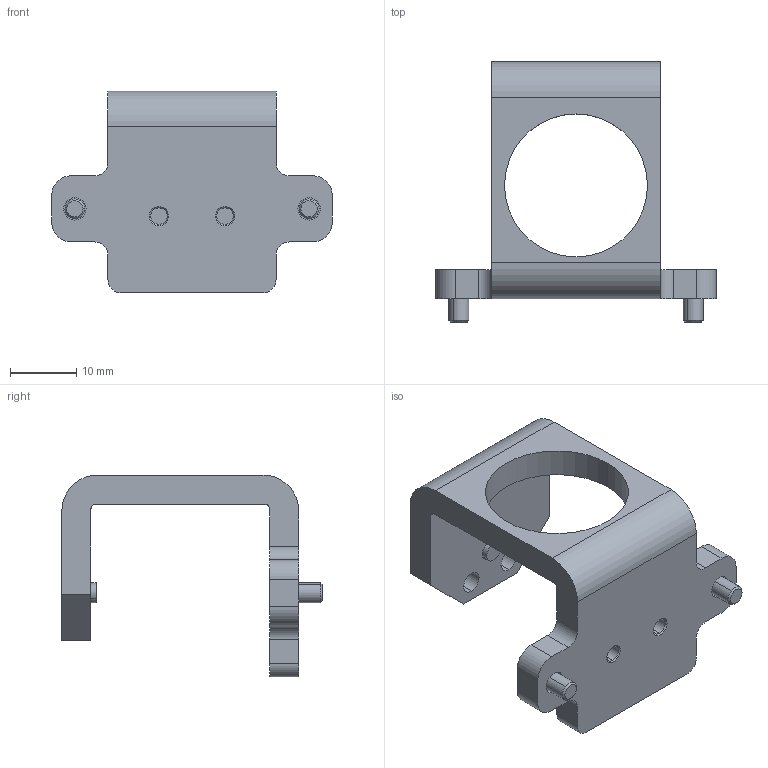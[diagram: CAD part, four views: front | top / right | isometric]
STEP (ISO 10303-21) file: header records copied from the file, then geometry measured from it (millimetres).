
FILE_DESCRIPTION (( 'STEP AP203' ), '1' );
FILE_NAME ('CSC1-3TP.STEP', '2024-03-28T03:19:48', ( '' ), ( '' ), 'SwSTEP 2.0', 'SolidWorks 2021', '' );
FILE_SCHEMA (( 'CONFIG_CONTROL_DESIGN' ));
Length unit declared in the file: millimetre
Products named in the file (1): CSC1-3TP
Bounding box: 42.4 x 39.34 x 30.5 mm (x, y, z)
Surface area: 5262.1 mm2 (no closed solid volume)
Topology: 0 solids, 12 shells, 166 faces, 810 edges, 640 vertices
Faces by surface type: plane 93, cylinder 40, cone 20, bspline 13
Entity records: 10031 total; most frequent: CARTESIAN_POINT 3826, ORIENTED_EDGE 1145, DIRECTION 1124, EDGE_CURVE 806, VERTEX_POINT 640, VECTOR 588, LINE 588, AXIS2_PLACEMENT_3D 268
